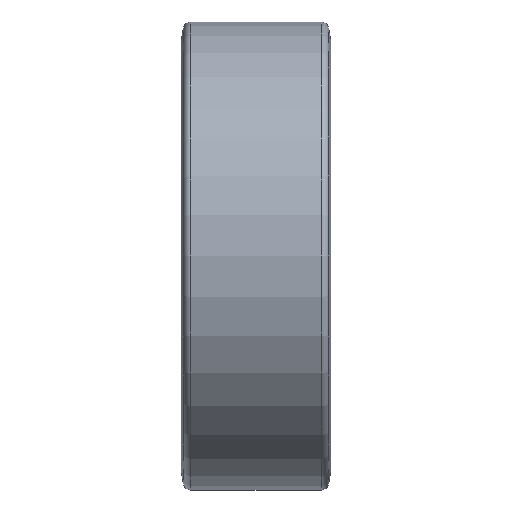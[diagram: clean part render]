
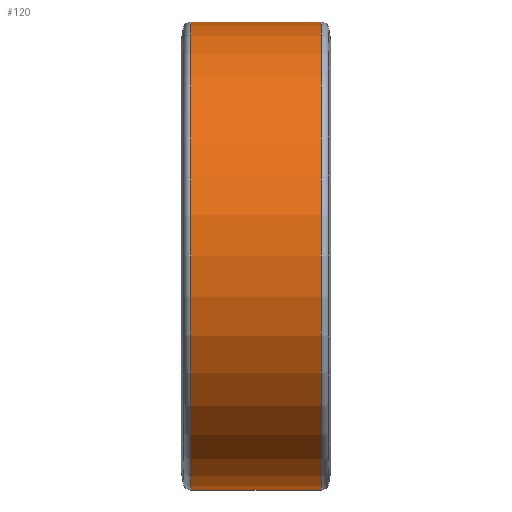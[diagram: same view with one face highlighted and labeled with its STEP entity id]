
A CAD part, front view. The second image highlights one B-rep face of the part: STEP entity #120.
In plain terms, the highlighted cylindrical face has radius 125 mm (diameter 250 mm), a partial arc.
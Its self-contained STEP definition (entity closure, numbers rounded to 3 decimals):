
#61 = CIRCLE ( 'NONE', #971, 125. ) ;
#111 = VERTEX_POINT ( 'NONE', #1236 ) ;
#120 = ADVANCED_FACE ( 'NONE', ( #425 ), #734, .T. ) ;
#205 = DIRECTION ( 'NONE',  ( 0., 0., 1. ) ) ;
#217 = ORIENTED_EDGE ( 'NONE', *, *, #1196, .T. ) ;
#248 = DIRECTION ( 'NONE',  ( -1., 0., 0. ) ) ;
#251 = CARTESIAN_POINT ( 'NONE',  ( -34.88, 0., 0. ) ) ;
#287 = CIRCLE ( 'NONE', #1131, 125. ) ;
#368 = ORIENTED_EDGE ( 'NONE', *, *, #1261, .F. ) ;
#395 = DIRECTION ( 'NONE',  ( -1., 0., 0. ) ) ;
#418 = VERTEX_POINT ( 'NONE', #1221 ) ;
#425 = FACE_OUTER_BOUND ( 'NONE', #992, .T. ) ;
#456 = AXIS2_PLACEMENT_3D ( 'NONE', #915, #797, #205 ) ;
#512 = CARTESIAN_POINT ( 'NONE',  ( 34.88, 0., 0. ) ) ;
#563 = DIRECTION ( 'NONE',  ( -1., 0., 0. ) ) ;
#594 = CARTESIAN_POINT ( 'NONE',  ( 34.88, 0., -125. ) ) ;
#600 = EDGE_CURVE ( 'NONE', #418, #891, #1265, .T. ) ;
#734 = CYLINDRICAL_SURFACE ( 'NONE', #456, 125. ) ;
#772 = CARTESIAN_POINT ( 'NONE',  ( 0., 0., -125. ) ) ;
#797 = DIRECTION ( 'NONE',  ( -1., 0., 0. ) ) ;
#809 = ORIENTED_EDGE ( 'NONE', *, *, #600, .T. ) ;
#868 = DIRECTION ( 'NONE',  ( 0., 0., 1. ) ) ;
#879 = VECTOR ( 'NONE', #248, 1000. ) ;
#891 = VERTEX_POINT ( 'NONE', #916 ) ;
#915 = CARTESIAN_POINT ( 'NONE',  ( 0., 0., 0. ) ) ;
#916 = CARTESIAN_POINT ( 'NONE',  ( -34.88, 0., 125. ) ) ;
#971 = AXIS2_PLACEMENT_3D ( 'NONE', #512, #395, #868 ) ;
#992 = EDGE_LOOP ( 'NONE', ( #368, #217, #809, #1018 ) ) ;
#1008 = EDGE_CURVE ( 'NONE', #111, #891, #287, .T. ) ;
#1018 = ORIENTED_EDGE ( 'NONE', *, *, #1008, .F. ) ;
#1035 = DIRECTION ( 'NONE',  ( 0., 0., 1. ) ) ;
#1131 = AXIS2_PLACEMENT_3D ( 'NONE', #251, #563, #1035 ) ;
#1180 = VECTOR ( 'NONE', #1323, 1000. ) ;
#1196 = EDGE_CURVE ( 'NONE', #1427, #418, #61, .T. ) ;
#1221 = CARTESIAN_POINT ( 'NONE',  ( 34.88, 0., 125. ) ) ;
#1236 = CARTESIAN_POINT ( 'NONE',  ( -34.88, 0., -125. ) ) ;
#1261 = EDGE_CURVE ( 'NONE', #1427, #111, #1448, .T. ) ;
#1265 = LINE ( 'NONE', #1280, #879 ) ;
#1280 = CARTESIAN_POINT ( 'NONE',  ( 0., 0., 125. ) ) ;
#1323 = DIRECTION ( 'NONE',  ( -1., 0., 0. ) ) ;
#1427 = VERTEX_POINT ( 'NONE', #594 ) ;
#1448 = LINE ( 'NONE', #772, #1180 ) ;
